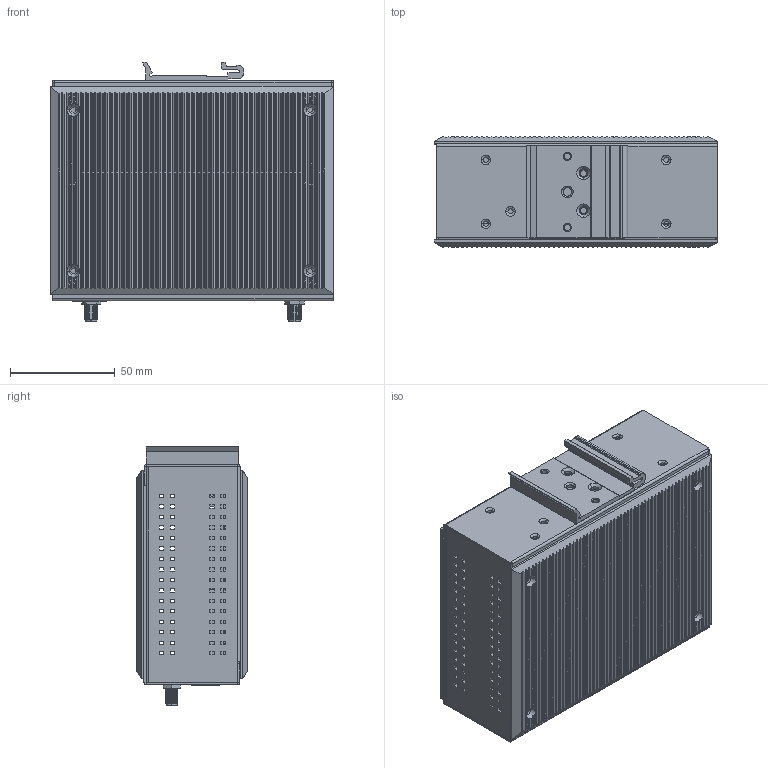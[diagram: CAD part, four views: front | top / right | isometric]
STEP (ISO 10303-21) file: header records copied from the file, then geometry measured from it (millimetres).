
FILE_DESCRIPTION((''),'2;1');
FILE_NAME('CU_WAP-3701','2008-02-12T',('dcrowder'),(''),'PRO/ENGINEER BY PARAMETRIC TECHNOLOGY CORPORATION, 2006080','PRO/ENGINEER BY PARAMETRIC TECHNOLOGY CORPORATION, 2006080','');
FILE_SCHEMA(('CONFIG_CONTROL_DESIGN'));
Products named in the file (1): CU_WAP-3701
Bounding box: 135.2 x 53.08 x 123.9 mm (x, y, z)
Volume: 113589.8 mm3; surface area: 199837.7 mm2
Topology: 5 solids, 12 shells, 1975 faces, 5402 edges, 3476 vertices
Faces by surface type: plane 1135, cylinder 642, bspline 94, cone 64, torus 40
Entity records: 69979 total; most frequent: CARTESIAN_POINT 20966, ORIENTED_EDGE 10750, DIRECTION 9016, EDGE_CURVE 5392, VECTOR 3618, LINE 3618, VERTEX_POINT 3476, AXIS2_PLACEMENT_3D 2699
